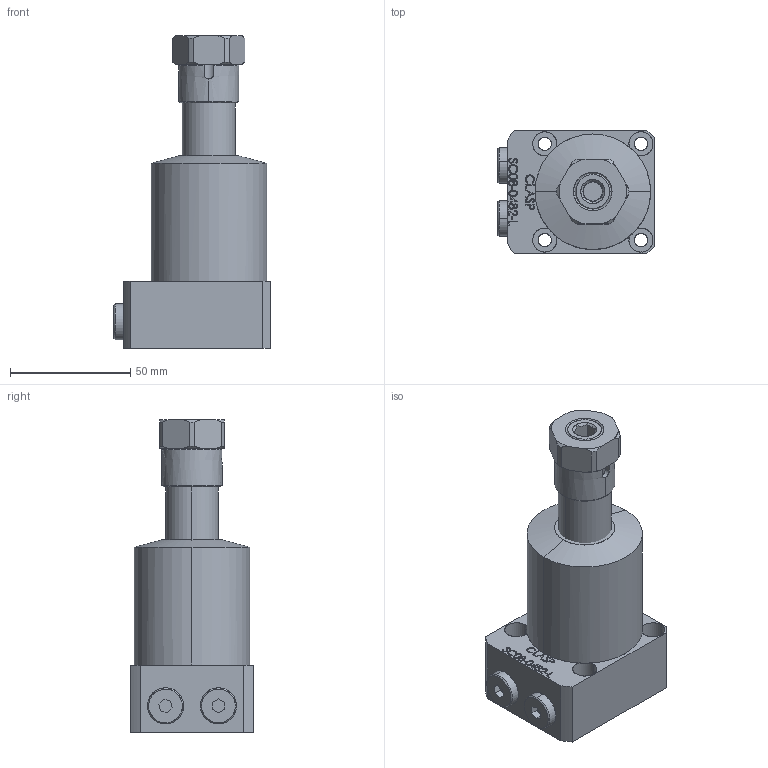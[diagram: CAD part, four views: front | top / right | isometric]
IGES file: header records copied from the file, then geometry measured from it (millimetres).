
Start section: SolidWorks IGES file using analytic representation for surfaces
Global section: file name: D:\karuppas\Clasp\3D model\SWING CYLINDER\bottom mounting swing cylinder\SC08-0482-L\SC08-0482-L.IGS; native system: SolidWorks 2017; preprocessor: SolidWorks 2017; author: pc; date: 220708.224802; units: millimetre
Bounding box: 65 x 51 x 130 mm (x, y, z)
Surface area: 36140.3 mm2 (no closed solid volume)
Topology: 0 solids, 0 shells, 381 faces, 5835 edges, 5835 vertices
Faces by surface type: bspline 278, revolution 103
